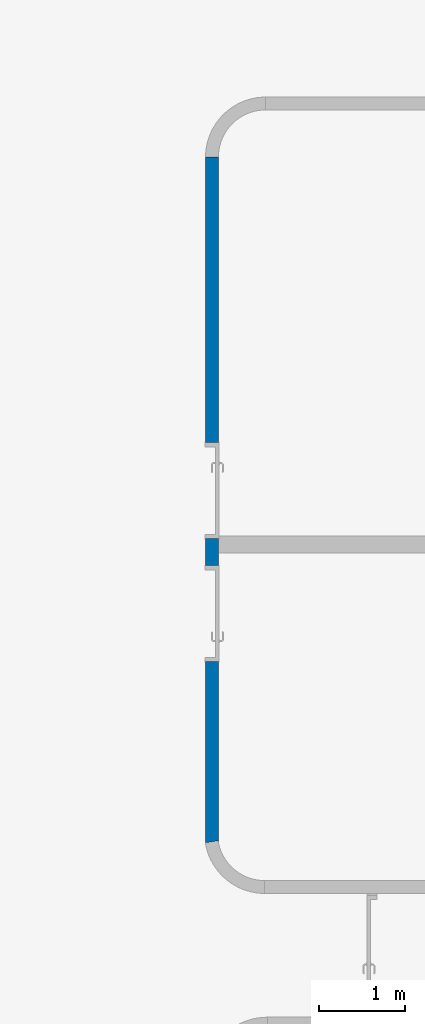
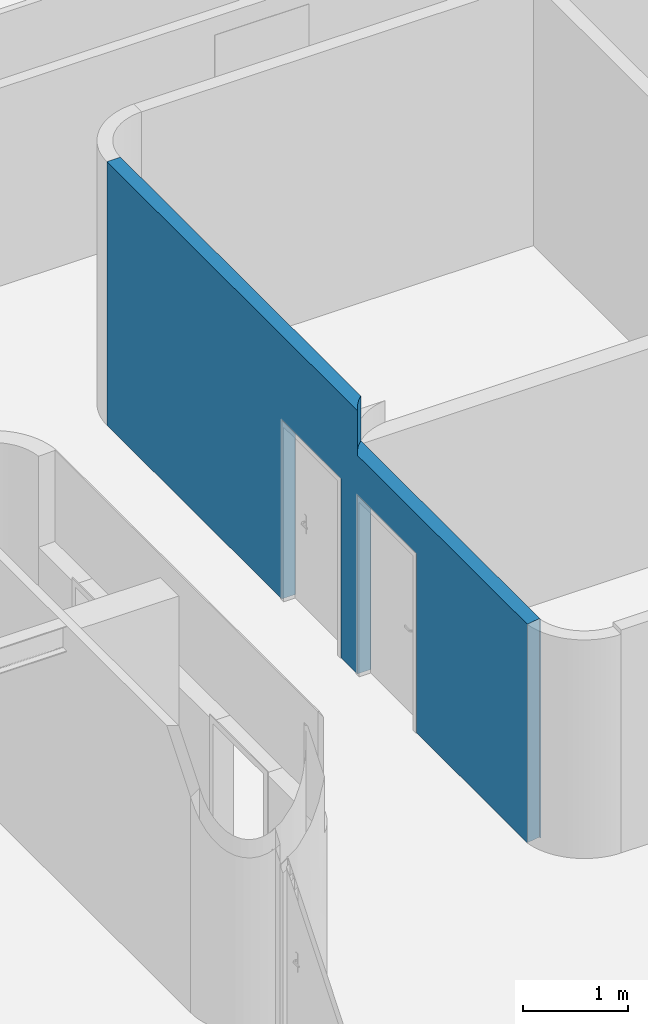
# One storey, part 6 of 7: 1 wall, 2 openings.
"""IFC2X3 building model written with IfcOpenShell, lengths in metres."""

from ifc_helpers import new_model, entity, si_unit, converted_unit, derived_unit, direction, frame, frame_2d, origin, place, context, subcontext, project, spatial, rectangle, extrude, faceted_brep, material, layer, layer_set, type_object, element, save


model = new_model("IFC2X3")

# Units and contexts
model_context = context("Model", 3, precision=1e-05, world=origin(), true_north=direction((6.12303176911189e-17, 1.0)))
body_context = subcontext(model_context, "Body", "Model", "MODEL_VIEW")
ifc_project = project(units=[si_unit("LENGTHUNIT", "METRE"), si_unit("AREAUNIT", "SQUARE_METRE"), si_unit("VOLUMEUNIT", "CUBIC_METRE"), converted_unit("PLANEANGLEUNIT", "DEGREE", entity("IfcRatioMeasure", 0.0174532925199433), si_unit("PLANEANGLEUNIT", "RADIAN"), dimensions=[0, 0, 0, 0, 0, 0, 0]), si_unit("MASSUNIT", "GRAM", prefix="KILO"), derived_unit("MASSDENSITYUNIT", [(si_unit("MASSUNIT", "GRAM", prefix="KILO"), 1), (si_unit("LENGTHUNIT", "METRE"), -3)]), derived_unit("MOMENTOFINERTIAUNIT", [(si_unit("LENGTHUNIT", "METRE"), 4)]), si_unit("TIMEUNIT", "SECOND"), si_unit("FREQUENCYUNIT", "HERTZ"), si_unit("THERMODYNAMICTEMPERATUREUNIT", "DEGREE_CELSIUS"), derived_unit("THERMALTRANSMITTANCEUNIT", [(si_unit("MASSUNIT", "GRAM", prefix="KILO"), 1), (si_unit("THERMODYNAMICTEMPERATUREUNIT", "KELVIN"), -1), (si_unit("TIMEUNIT", "SECOND"), -3)]), derived_unit("VOLUMETRICFLOWRATEUNIT", [(si_unit("LENGTHUNIT", "METRE"), 3), (si_unit("TIMEUNIT", "SECOND"), -1)]), si_unit("ELECTRICCURRENTUNIT", "AMPERE"), si_unit("ELECTRICVOLTAGEUNIT", "VOLT"), si_unit("POWERUNIT", "WATT"), si_unit("FORCEUNIT", "NEWTON", prefix="KILO"), si_unit("ILLUMINANCEUNIT", "LUX"), si_unit("LUMINOUSFLUXUNIT", "LUMEN"), si_unit("LUMINOUSINTENSITYUNIT", "CANDELA"), derived_unit("USERDEFINED", [(si_unit("MASSUNIT", "GRAM", prefix="KILO"), -1), (si_unit("LENGTHUNIT", "METRE"), -2), (si_unit("TIMEUNIT", "SECOND"), 3), (si_unit("LUMINOUSFLUXUNIT", "LUMEN"), 1)]), derived_unit("LINEARVELOCITYUNIT", [(si_unit("LENGTHUNIT", "METRE"), 1), (si_unit("TIMEUNIT", "SECOND"), -1)]), si_unit("PRESSUREUNIT", "PASCAL"), derived_unit("USERDEFINED", [(si_unit("LENGTHUNIT", "METRE"), -2), (si_unit("MASSUNIT", "GRAM", prefix="KILO"), 1), (si_unit("TIMEUNIT", "SECOND"), -2)]), derived_unit("LINEARFORCEUNIT", [(si_unit("MASSUNIT", "GRAM", prefix="KILO"), 1), (si_unit("LENGTHUNIT", "METRE"), 1), (si_unit("TIMEUNIT", "SECOND"), -2), (si_unit("LENGTHUNIT", "METRE"), -1)]), derived_unit("PLANARFORCEUNIT", [(si_unit("MASSUNIT", "GRAM", prefix="KILO"), 1), (si_unit("LENGTHUNIT", "METRE"), 1), (si_unit("TIMEUNIT", "SECOND"), -2), (si_unit("LENGTHUNIT", "METRE"), -2)])], contexts=[model_context])

# Site, building, storey
site_placement = place(None, origin())
site = spatial("IfcSite", under=ifc_project, at=site_placement, Name="Default", CompositionType="ELEMENT")
building_placement = place(site_placement, origin())
building = spatial("IfcBuilding", under=site, at=building_placement, CompositionType="ELEMENT")
storey_placement = place(building_placement, frame((0.0, 0.0, 7.36730827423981)))
storey = spatial("IfcBuildingStorey", under=building, at=storey_placement, Name="Niveau 2", CompositionType="ELEMENT", Elevation=7.36730827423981)

# Wall, openings
ifc_material = material(Name="Maçonnerie - Voile BA")
ifc_layer = layer(ifc_material, 0.15)
ifc_layer_set = layer_set([ifc_layer], Name="Mur de base:Ext. Voile BA 150")
wall_type = type_object("IfcWallType", Name="Mur de base:Ext. Voile BA 150", PredefinedType="STANDARD", material=ifc_layer_set)
wall_placement = place(storey_placement, frame((-15.8652391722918, 1.25088709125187, 0.0), z_axis=(0.0, 0.0, 1.0), x_axis=(0.0, -1.0, 0.0)))
wall = element("IfcWall", 1, at=wall_placement, inside=storey, type_object=wall_type, Name="Mur de base:Ext. Voile BA 150", ObjectType="Mur de base:Ext. Voile BA 150", context=body_context, shape_type="Brep", body=[
    faceted_brep([(5.88000223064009, -0.0749999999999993, 0.0), (5.88000223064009, 0.0750000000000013, 0.0), (7.99067489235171, 0.0750000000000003, 0.0), (7.97863606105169, 0.0726664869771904, 0.0), (7.9665481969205, 0.0706019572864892, 0.0), (7.98974861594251, -0.0750000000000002, 0.0), (4.7600022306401, -0.0750000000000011, 0.0), (4.44500223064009, -0.0749999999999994, 0.0), (4.44500223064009, 0.0750000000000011, 0.0), (4.61500223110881, 0.0750000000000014, 0.0), (4.7600022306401, 0.0749999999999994, 0.0), (3.32500223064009, -0.0749999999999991, 0.0), (0.0, -0.0750000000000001, 0.0), (0.0, 0.0750000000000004, 0.0), (3.32500223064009, 0.0750000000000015, 0.0), (3.32500223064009, -0.0749999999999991, 2.075), (4.44500223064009, -0.0749999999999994, 2.075), (4.7600022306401, -0.0749999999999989, 2.075), (5.88000223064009, -0.0749999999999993, 2.075), (7.98974861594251, -0.0750000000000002, 2.5360000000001), (4.75930415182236, -0.0749999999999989, 2.5360000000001), (4.75930415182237, -0.0749999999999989, 3.05600000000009), (0.0, -0.0750000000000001, 3.05600000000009), (5.88000223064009, 0.0750000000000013, 2.075), (4.7600022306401, 0.0750000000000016, 2.075), (4.44500223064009, 0.0750000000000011, 2.075), (3.32500223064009, 0.0750000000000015, 2.075), (0.0, 0.0750000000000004, 3.05600000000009), (4.56641586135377, 0.0750000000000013, 3.05600000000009), (4.56641586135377, 0.0750000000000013, 2.7860000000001), (4.56641586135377, 0.0750000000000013, 2.5360000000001), (4.61500223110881, 0.0750000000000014, 2.5360000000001), (7.9906748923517, 0.0750000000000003, 2.5360000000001), (7.99067489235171, 0.0750000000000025, 2.43364033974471), (7.99067489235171, 0.0750000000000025, 2.33128067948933), (7.99067489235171, 0.0750000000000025, 2.22892101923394), (7.99067489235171, 0.0750000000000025, 2.12656135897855), (7.99067489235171, 0.0750000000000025, 2.02420169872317), (7.99067489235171, 0.0750000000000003, 1.92184203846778), (7.99067489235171, 0.0750000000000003, 1.81948237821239), (7.99067489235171, 0.0750000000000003, 1.717122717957), (7.99067489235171, 0.0750000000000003, 1.61476305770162), (7.99067489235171, 0.0750000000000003, 1.51240339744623), (7.99067489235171, 0.0750000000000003, 1.41004373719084), (7.99067489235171, 0.0750000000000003, 1.30768407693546), (7.99067489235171, 0.0750000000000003, 1.20532441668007), (7.99067489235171, 0.0750000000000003, 1.10296475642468), (7.99067489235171, 0.0750000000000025, 1.00060509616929), (7.99067489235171, 0.0750000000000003, 0.898245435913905), (7.99067489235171, 0.0750000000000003, 0.785964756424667), (7.99067489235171, 0.0750000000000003, 0.673684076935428), (7.99067489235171, 0.0750000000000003, 0.561403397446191), (7.99067489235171, 0.0750000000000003, 0.449122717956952), (7.99067489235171, 0.0750000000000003, 0.336842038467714), (7.99067489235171, 0.0750000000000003, 0.224561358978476), (7.99067489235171, 0.0750000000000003, 0.102359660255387), (7.97803419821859, 0.0725571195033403, 1.36069904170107), (7.97884510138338, 0.0727046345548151, 1.46638012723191), (7.96654819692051, 0.0706019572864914, 1.42650000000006), (7.97949186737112, 0.0728231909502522, 1.56358322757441), (7.97780116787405, 0.0725149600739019, 1.65903612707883), (7.96654819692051, 0.0706019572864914, 1.58500000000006), (7.97760951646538, 0.0724803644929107, 2.15876626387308), (7.9783635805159, 0.0726168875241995, 2.25862500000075), (7.97863606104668, 0.0726664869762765, 0.153539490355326), (7.9786360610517, 0.0726664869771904, 2.5360000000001), (7.97863606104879, 0.0726664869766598, 2.40557016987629), (7.96654819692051, 0.0706019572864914, 2.29825000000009), (7.97832844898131, 0.0726105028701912, 0.729824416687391), (7.96654819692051, 0.0706019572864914, 0.102359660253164), (7.96654819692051, 0.0706019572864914, 0.204719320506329), (7.96654819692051, 0.0706019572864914, 2.43364033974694), (7.96654819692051, 0.0706019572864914, 2.37750000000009), (7.96654819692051, 0.0706019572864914, 2.5360000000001), (7.97901778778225, 0.0727362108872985, 0.933756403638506), (7.96654819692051, 0.0706019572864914, 0.871750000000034), (7.97890980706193, 0.0727164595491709, 0.84210509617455), (7.97844780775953, 0.0726322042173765, 1.0698749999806), (7.97797545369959, 0.0725464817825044, 0.450289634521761), (7.97778000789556, 0.0725111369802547, 0.358258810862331), (7.97973270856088, 0.0728675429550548, 0.533434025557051), (7.96654819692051, 0.0706019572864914, 1.18875000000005), (7.97920659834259, 0.0727708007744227, 1.26969377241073), (7.96654819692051, 0.0706019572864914, 1.34725000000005), (7.96654819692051, 0.0706019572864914, 1.26800000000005), (7.97913520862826, 0.0727577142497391, 1.88016655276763), (7.9794298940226, 0.0728117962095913, 1.76830254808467), (7.97926345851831, 0.0727812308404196, 2.06416950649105), (7.96654819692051, 0.0706019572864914, 2.06050000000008), (7.97767538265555, 0.0724922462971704, 1.97302186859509), (7.96654819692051, 0.0706019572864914, 2.21900000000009), (7.96654819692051, 0.0706019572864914, 2.13975000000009), (7.97765411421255, 0.0724884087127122, 1.17034421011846), (7.97812416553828, 0.0725734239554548, 0.247200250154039), (7.96654819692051, 0.0706019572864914, 0.307078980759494), (7.96654819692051, 0.0706019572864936, 1.90200000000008), (7.96654819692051, 0.0706019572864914, 1.98125000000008), (7.96654819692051, 0.0706019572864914, 0.634000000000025), (7.96654819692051, 0.0706019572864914, 0.792500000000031), (7.96654819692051, 0.0706019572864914, 0.713250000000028), (7.96654819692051, 0.0706019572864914, 0.521719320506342), (7.97977708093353, 0.0728757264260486, 0.617543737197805), (7.96654819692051, 0.0706019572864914, 0.40943864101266), (7.96654819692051, 0.0706019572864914, 1.10950000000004), (7.96654819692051, 0.0706019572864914, 1.03025000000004), (7.96654819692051, 0.0706019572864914, 0.951000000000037), (7.96654819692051, 0.0706019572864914, 1.82275000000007), (7.96654819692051, 0.0706019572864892, 1.74350000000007), (7.96654819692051, 0.0706019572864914, 1.66425000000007), (7.96654819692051, 0.0706019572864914, 1.50575000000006), (4.68867050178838, -0.0335250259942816, 3.05600000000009), (4.62401054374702, 0.016757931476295, 3.05600000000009), (4.68867050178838, -0.0335250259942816, 2.5360000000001), (4.62401054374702, 0.0167579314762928, 2.5360000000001)], [[[0, 1, 2, 3, 4, 5]], [[6, 7, 8, 9, 10]], [[11, 12, 13, 14]], [[12, 11, 15, 16, 7, 6, 17, 18, 0, 5, 19, 20, 21, 22]], [[23, 24, 10, 9, 8, 25, 26, 14, 13, 27, 28, 29, 30, 31, 32, 33, 34, 35, 36, 37, 38, 39, 40, 41, 42, 43, 44, 45, 46, 47, 48, 49, 50, 51, 52, 53, 54, 55, 2, 1]], [[12, 22, 27, 13]], [[56, 57, 58]], [[59, 60, 61]], [[62, 35, 63]], [[3, 2, 55, 54, 64]], [[33, 32, 65, 66, 34]], [[63, 66, 67]], [[68, 50, 49]], [[69, 4, 3, 64, 70]], [[71, 72, 67, 66, 65, 73]], [[74, 75, 76]], [[47, 46, 77]], [[78, 79, 52]], [[80, 52, 51]], [[81, 82, 83, 84]], [[68, 49, 76]], [[85, 86, 39]], [[87, 88, 89]], [[85, 38, 89]], [[62, 90, 91]], [[92, 46, 45]], [[93, 70, 64]], [[93, 79, 94]], [[64, 54, 93]], [[62, 63, 90]], [[77, 46, 92]], [[48, 76, 49]], [[67, 90, 63]], [[87, 89, 37]], [[63, 34, 66]], [[34, 63, 35]], [[62, 36, 35]], [[87, 91, 88]], [[89, 95, 85]], [[89, 38, 37]], [[62, 87, 36]], [[89, 88, 96, 95]], [[97, 68, 98, 99]], [[100, 78, 80]], [[97, 101, 68]], [[79, 93, 53]], [[93, 54, 53]], [[94, 79, 102]], [[94, 70, 93]], [[52, 79, 53]], [[51, 101, 80]], [[102, 79, 78]], [[50, 101, 51]], [[100, 102, 78]], [[76, 48, 74]], [[68, 76, 98]], [[77, 103, 104]], [[105, 75, 74, 104]], [[74, 48, 47]], [[77, 74, 47]], [[77, 104, 74]], [[92, 103, 77]], [[82, 45, 44]], [[82, 44, 56]], [[82, 81, 92]], [[60, 40, 86]], [[68, 101, 50]], [[85, 106, 86]], [[39, 86, 40]], [[39, 38, 85]], [[60, 107, 108, 61]], [[107, 60, 86]], [[60, 59, 41]], [[41, 59, 42]], [[41, 40, 60]], [[106, 85, 95]], [[59, 109, 57]], [[42, 59, 57]], [[56, 43, 57]], [[83, 82, 56]], [[43, 56, 44]], [[43, 42, 57]], [[106, 107, 86]], [[100, 101, 97]], [[56, 58, 83]], [[45, 82, 92]], [[100, 80, 101]], [[52, 80, 78]], [[36, 87, 37]], [[87, 62, 91]], [[109, 59, 61]], [[109, 58, 57]], [[75, 98, 76]], [[81, 103, 92]], [[19, 5, 4, 69, 70, 94, 102, 100, 97, 99, 98, 75, 105, 104, 103, 81, 84, 83, 58, 109, 61, 108, 107, 106, 95, 96, 88, 91, 90, 67, 72, 71, 73]], [[1, 0, 18, 23]], [[24, 23, 18, 17]], [[15, 26, 25, 16]], [[24, 17, 6, 10]], [[11, 14, 26, 15]], [[16, 25, 8, 7]], [[22, 21, 110, 111, 28, 27]], [[20, 112, 110, 21]], [[112, 113, 111, 110]], [[29, 28, 111, 113, 30]], [[20, 19, 73, 65, 32, 31, 30, 113, 112]]]),
])
opening_1_placement = place(wall_placement, frame((4.7600022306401, -0.0749999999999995, 0.0)))
element("IfcOpeningElement", 2, at=opening_1_placement, cuts=wall, Name="Tierce  160:1.10m x 2.04m:1", ObjectType="Opening", context=body_context, shape_type="SweptSolid", body=[
    extrude(rectangle(XDim=2.075, YDim=1.12, at=frame_2d((1.0375, 0.559999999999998), x_axis=(1.0, 0.0))), frame((0.0, 0.0, 0.0), z_axis=(0.0, 1.0, 0.0), x_axis=(0.0, 0.0, 1.0)), (0.0, 0.0, 1.0), 0.15),
])
opening_2_placement = place(wall_placement, frame((3.32500223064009, -0.0750000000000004, 0.0)))
element("IfcOpeningElement", 3, at=opening_2_placement, cuts=wall, Name="Tierce  160:1.10m x 2.04m:1", ObjectType="Opening", context=body_context, shape_type="SweptSolid", body=[
    extrude(rectangle(XDim=2.075, YDim=1.12, at=frame_2d((1.0375, 0.559999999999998), x_axis=(1.0, 0.0))), frame((0.0, 0.0, 0.0), z_axis=(0.0, 1.0, 0.0), x_axis=(0.0, 0.0, 1.0)), (0.0, 0.0, 1.0), 0.15),
])

save(model, "model.ifc")
